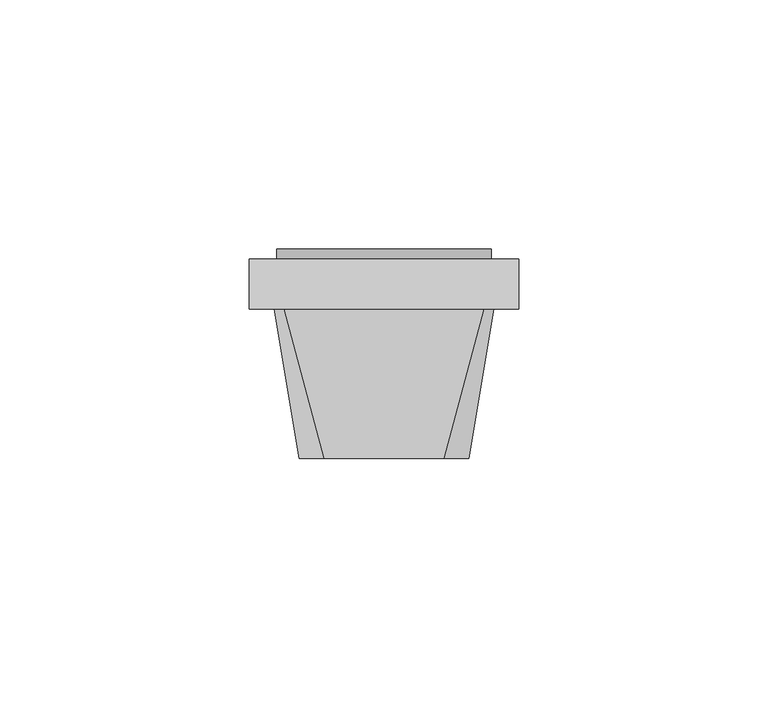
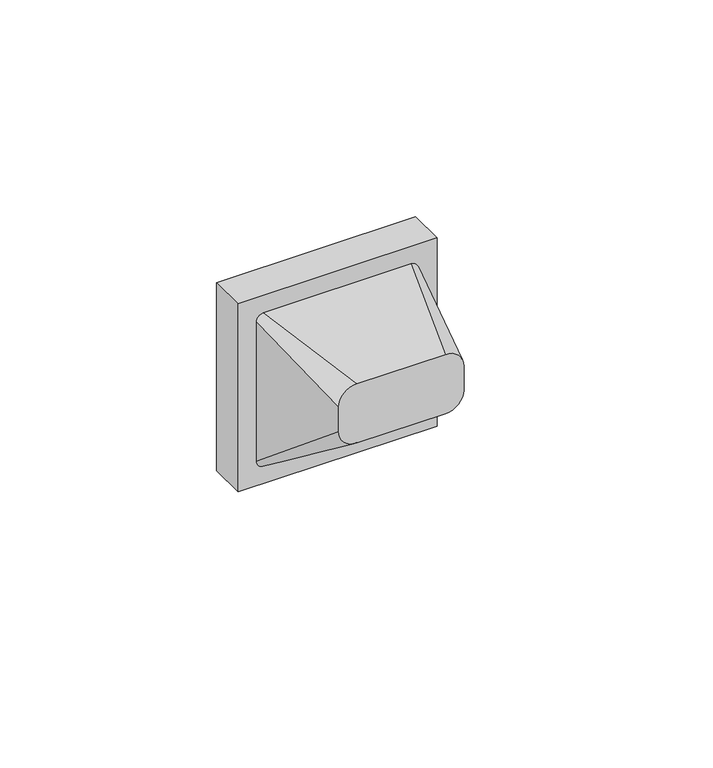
"""IFC4 building model written with IfcOpenShell, lengths in millimetres: proxy geometry, IEK_Brite_Механизм розетки 230В : 230 В шт._РСш10-2-БрА."""

import ifcopenshell
import ifcopenshell.guid

model = None  # the IFC model being written
_history = None  # IfcOwnerHistory: only IFC2X3 demands one
_inside = {}  # id of a spatial element -> (the spatial element, [elements in it])
_under = {}  # id of a project, library or spatial element -> (it, [spatial elements below it])
_declared = {}  # id of a project -> (the project, [libraries it declares])
_typed = {}  # id of a type object -> (the type object, [elements of that type])
_made_of = {}  # id of a material, layer set ... -> (it, [elements and type objects made of it])


def new_model(schema):
    """Start an empty IFC model of exactly this schema.

    Asked for "IFC4X3", IfcOpenShell would pick the latest addendum, in which some entities
    have other attributes; the version numbers below select the first issue.
    IFC2X3 requires an IfcOwnerHistory on every rooted entity: one is made here for all.
    """
    global model, _history
    if schema == "IFC4X3":
        model = ifcopenshell.file(schema_version=(4, 3, 0, 0))
    else:
        model = ifcopenshell.file(schema=schema)
    _inside.clear()
    _under.clear()
    _declared.clear()
    _typed.clear()
    _made_of.clear()
    _history = None
    if model.schema == "IFC2X3":
        org = make("IfcOrganization", Name="unknown")
        user = make(
            "IfcPersonAndOrganization",
            ThePerson=make("IfcPerson", FamilyName="unknown"),
            TheOrganization=org,
        )
        app = make(
            "IfcApplication",
            ApplicationDeveloper=org,
            Version="unknown",
            ApplicationFullName="unknown",
            ApplicationIdentifier="unknown",
        )
        _history = make(
            "IfcOwnerHistory",
            OwningUser=user,
            OwningApplication=app,
            ChangeAction="ADDED",
            CreationDate=0,
        )
    return model


def make(cls, **values):
    """One entity of the class cls with the attributes given. An attribute that is None is left unset."""
    return model.create_entity(
        cls, **{name: value for name, value in values.items() if value is not None}
    )


def rooted(cls, **values):
    """An entity with a GlobalId (a new one), such as an element, a storey or a relation."""
    return make(cls, GlobalId=ifcopenshell.guid.new(), OwnerHistory=_history, **values)


def si_unit(unit_type, name, prefix=None):
    """IfcSIUnit, for example si_unit("LENGTHUNIT", "METRE", prefix="MILLI")."""
    return make("IfcSIUnit", UnitType=unit_type, Prefix=prefix, Name=name)


def assignment(units):
    """IfcUnitAssignment: the units of a project."""
    return None if units is None else make("IfcUnitAssignment", Units=units)


def point(xyz):
    """IfcCartesianPoint."""
    return None if xyz is None else make("IfcCartesianPoint", Coordinates=xyz)


def direction(xyz):
    """IfcDirection."""
    return None if xyz is None else make("IfcDirection", DirectionRatios=xyz)


def frame(location, z_axis=None, x_axis=None):
    """IfcAxis2Placement3D, a coordinate frame: its origin and axes. An axis left out is left unset."""
    return make(
        "IfcAxis2Placement3D",
        Location=point(location),
        Axis=direction(z_axis),
        RefDirection=direction(x_axis),
    )


def frame_2d(location, x_axis=None):
    """IfcAxis2Placement2D, a coordinate frame in the plane: its origin and x axis."""
    return make(
        "IfcAxis2Placement2D", Location=point(location), RefDirection=direction(x_axis)
    )


def origin():
    """The frame at (0, 0, 0) with its axes left unset."""
    return frame((0.0, 0.0, 0.0))


def origin_2d():
    """The frame at (0, 0) in the plane with its x axis left unset."""
    return frame_2d((0.0, 0.0))


def place(relative_to, where):
    """IfcLocalPlacement: puts the frame where relative to a parent placement (None: the world)."""
    return make(
        "IfcLocalPlacement", PlacementRelTo=relative_to, RelativePlacement=where
    )


def context(
    kind, dimensions, precision=None, world=None, true_north=None, identifier=None
):
    """IfcGeometricRepresentationContext, for example the 3D "Model" context."""
    return make(
        "IfcGeometricRepresentationContext",
        ContextIdentifier=identifier,
        ContextType=kind,
        CoordinateSpaceDimension=dimensions,
        Precision=precision,
        WorldCoordinateSystem=world,
        TrueNorth=true_north,
    )


def project(units=None, contexts=None):
    """IfcProject with its units and contexts."""
    return rooted(
        "IfcProject",
        Name="project",
        RepresentationContexts=contexts,
        UnitsInContext=assignment(units),
    )


def spatial(cls, under=None, at=None, **own):
    """A site, building, storey or space (cls), placed at a placement, below another one or the project."""
    s = rooted(cls, ObjectPlacement=at, **own)
    if under is not None:
        _under.setdefault(under.id(), (under, []))[1].append(s)
    return s


def polyline(points):
    """IfcPolyline through the points."""
    return make("IfcPolyline", Points=[point(p) for p in points])


def circle_curve(where, radius):
    """IfcCircle in the frame where."""
    return make("IfcCircle", Position=where, Radius=radius)


def ellipse_curve(where, semi_axis1, semi_axis2):
    """IfcEllipse in the frame where."""
    return make(
        "IfcEllipse", Position=where, SemiAxis1=semi_axis1, SemiAxis2=semi_axis2
    )


def trimmed(basis, trim1, trim2, sense, master):
    """IfcTrimmedCurve: the piece of a basis curve between two trims."""
    return make(
        "IfcTrimmedCurve",
        BasisCurve=basis,
        Trim1=trim1,
        Trim2=trim2,
        SenseAgreement=sense,
        MasterRepresentation=master,
    )


def segment(curve, same_sense, transition):
    """IfcCompositeCurveSegment."""
    return make(
        "IfcCompositeCurveSegment",
        Transition=transition,
        SameSense=same_sense,
        ParentCurve=curve,
    )


def composite_curve(segments, self_intersect=None):
    """IfcCompositeCurve: segments joined end to end."""
    return make("IfcCompositeCurve", Segments=segments, SelfIntersect=self_intersect)


def outline(outer, holes=None, kind="AREA"):
    """IfcArbitraryClosedProfileDef: a profile drawn as a closed curve; with holes, ...WithVoids."""
    if holes is None:
        return make("IfcArbitraryClosedProfileDef", ProfileType=kind, OuterCurve=outer)
    return make(
        "IfcArbitraryProfileDefWithVoids",
        ProfileType=kind,
        OuterCurve=outer,
        InnerCurves=holes,
    )


def extrude(swept, where, along, depth):
    """IfcExtrudedAreaSolid: the profile swept, set in the frame where, extruded along a direction by depth."""
    return make(
        "IfcExtrudedAreaSolid",
        SweptArea=swept,
        Position=where,
        ExtrudedDirection=direction(along),
        Depth=depth,
    )


def shape(context_of_items, identifier, shape_type, items):
    """IfcShapeRepresentation: the items that make up one representation, for example the "Body"."""
    return make(
        "IfcShapeRepresentation",
        ContextOfItems=context_of_items,
        RepresentationIdentifier=identifier,
        RepresentationType=shape_type,
        Items=items,
    )


def source(mapping_origin, context_of_items, identifier, shape_type, items):
    """IfcRepresentationMap: a shape defined once, which mapped items show again and again."""
    return make(
        "IfcRepresentationMap",
        MappingOrigin=mapping_origin,
        MappedRepresentation=shape(context_of_items, identifier, shape_type, items),
    )


def transform(
    local_origin,
    x_axis=None,
    y_axis=None,
    z_axis=None,
    scale=None,
    scale2=None,
    scale3=None,
    uniform=True,
):
    """IfcCartesianTransformationOperator3D, or its non-uniform kind. x_axis, y_axis, z_axis: its Axis1, 2, 3."""
    if uniform:
        return make(
            "IfcCartesianTransformationOperator3D",
            Axis1=direction(x_axis),
            Axis2=direction(y_axis),
            LocalOrigin=point(local_origin),
            Scale=scale,
            Axis3=direction(z_axis),
        )
    return make(
        "IfcCartesianTransformationOperator3DnonUniform",
        Axis1=direction(x_axis),
        Axis2=direction(y_axis),
        LocalOrigin=point(local_origin),
        Scale=scale,
        Axis3=direction(z_axis),
        Scale2=scale2,
        Scale3=scale3,
    )


def mapped(mapping_source, mapping_target):
    """IfcMappedItem: shows the shape of a source again, moved by a transform."""
    return make(
        "IfcMappedItem", MappingSource=mapping_source, MappingTarget=mapping_target
    )


def made_of(thing, what):
    """Note that an element or type object is made of a material, layer set ...; save() writes the relation."""
    if what is not None:
        _made_of.setdefault(what.id(), (what, []))[1].append(thing)
    return thing


def element(
    cls,
    number,
    at=None,
    inside=None,
    cuts=None,
    type_object=None,
    material=None,
    context=None,
    identifier="Body",
    shape_type=None,
    held_by="IfcProductDefinitionShape",
    body=None,
    shapes=None,
    **own,
):
    """One element of the class cls, such as IfcWall. Its Tag is "e" and its number.

    at: its placement. inside: the storey or other place that contains it. cuts: it is an
    opening in that element (IfcRelVoidsElement). A single representation is given by context,
    identifier, shape_type and body (its items); several are given by shapes. held_by: the class
    of the entity that holds the representations. save() writes the other relations.
    """
    e = rooted(cls, Tag="e%d" % number, ObjectPlacement=at, **own)
    if body is not None:
        shapes = [shape(context, identifier, shape_type, body)]
    if shapes is not None:
        e.Representation = make(held_by, Representations=shapes)
    if inside is not None:
        _inside.setdefault(inside.id(), (inside, []))[1].append(e)
    if cuts is not None:
        rooted(
            "IfcRelVoidsElement", RelatingBuildingElement=cuts, RelatedOpeningElement=e
        )
    if type_object is not None:
        _typed.setdefault(type_object.id(), (type_object, []))[1].append(e)
    return made_of(e, material)


def aggregate(whole, parts):
    """IfcRelAggregates: a whole, such as a stair, and the parts it consists of."""
    return rooted("IfcRelAggregates", RelatingObject=whole, RelatedObjects=parts)


def save(model, path):
    """Write the relations noted so far, then the file.

    IfcRelAggregates (storeys below a building ...), IfcRelContainedInSpatialStructure (elements
    in a storey), IfcRelDefinesByType, IfcRelAssociatesMaterial and IfcRelDeclares: one each for
    every whole, place, type object, material and project.
    """
    for whole, parts in _under.values():
        aggregate(whole, parts)
    for where, things in _inside.values():
        rooted(
            "IfcRelContainedInSpatialStructure",
            RelatedElements=things,
            RelatingStructure=where,
        )
    for kind, things in _typed.values():
        rooted("IfcRelDefinesByType", RelatedObjects=things, RelatingType=kind)
    for what, things in _made_of.values():
        rooted("IfcRelAssociatesMaterial", RelatedObjects=things, RelatingMaterial=what)
    for by, libraries in _declared.values():
        rooted("IfcRelDeclares", RelatingContext=by, RelatedDefinitions=libraries)
    model.write(path)


def plane_surface(at):
    """IfcPlane: the flat surface through the origin of the frame at, square to its z axis."""
    return make("IfcPlane", Position=at)


def cylinder_surface(at, radius):
    """IfcCylindricalSurface: all points at the distance radius from the z axis of the frame at."""
    return make("IfcCylindricalSurface", Position=at, Radius=radius)


def revolved_surface(curve, axis_point, axis_direction):
    """IfcSurfaceOfRevolution: the curve turned about the line through axis_point along axis_direction."""
    return make(
        "IfcSurfaceOfRevolution",
        SweptCurve=make("IfcArbitraryOpenProfileDef", ProfileType="CURVE", Curve=curve),
        AxisPosition=make("IfcAxis1Placement", Location=point(axis_point), Axis=direction(axis_direction)),
    )


def spline_surface(u_degree, v_degree, points, u_multiplicities, v_multiplicities, u_knots, v_knots, weights=None):
    """IfcBSplineSurfaceWithKnots; with weights, IfcRationalBSplineSurfaceWithKnots. points: one row for each step in u."""
    own = dict(
        UDegree=u_degree,
        VDegree=v_degree,
        ControlPointsList=[[point(p) for p in row] for row in points],
        SurfaceForm="UNSPECIFIED",
        UClosed=False,
        VClosed=False,
        SelfIntersect=False,
        UMultiplicities=u_multiplicities,
        VMultiplicities=v_multiplicities,
        UKnots=u_knots,
        VKnots=v_knots,
        KnotSpec="UNSPECIFIED",
    )
    if weights is None:
        return make("IfcBSplineSurfaceWithKnots", **own)
    return make("IfcRationalBSplineSurfaceWithKnots", WeightsData=weights, **own)


def advanced_brep(points, edges, surfaces, faces):
    """IfcAdvancedBrep: a solid bounded by faces that lie on surfaces and meet in shared edges.

    An edge is (start, end): straight between two places in points (the first is 0);
    or (start, end, curve); or (start, end, curve, False) where it runs against its curve.
    A face is (place in surfaces, loops), or (place, loops, False) where it looks against
    its surface's normal. A loop lists edges by number (the first is 1), with a minus sign
    where the edge is run from its end to its start. The first loop is the outer one.
    """
    corners = [point(p) for p in points]
    vertices = [make("IfcVertexPoint", VertexGeometry=c) for c in corners]
    made = []
    for start, end, *more in edges:
        made.append(
            make(
                "IfcEdgeCurve",
                EdgeStart=vertices[start],
                EdgeEnd=vertices[end],
                EdgeGeometry=more[0] if more else make("IfcPolyline", Points=[corners[start], corners[end]]),
                SameSense=more[1] if len(more) > 1 else True,
            )
        )
    hull = []
    for where, loops, *sense in faces:
        bounds = []
        for j, loop in enumerate(loops):
            ring = [make("IfcOrientedEdge", EdgeElement=made[abs(k) - 1], Orientation=k > 0) for k in loop]
            bounds.append(
                make(
                    "IfcFaceOuterBound" if j == 0 else "IfcFaceBound",
                    Bound=make("IfcEdgeLoop", EdgeList=ring),
                    Orientation=True,
                )
            )
        hull.append(make("IfcAdvancedFace", Bounds=bounds, FaceSurface=surfaces[where], SameSense=sense[0] if sense else True))
    return make("IfcAdvancedBrep", Outer=make("IfcClosedShell", CfsFaces=hull))


def electrical_fixtures_7a809f7f(model_context):
    return source(origin(), model_context, "Body", "SolidModel", [
        advanced_brep(
        [(-12.0, -30.0, 17.0), (-17.0, -30.0, 12.0), (-17.0, -30.0, 5.0), (-12.0, -30.0, 0.0), (12.0, -30.0, 0.0), (17.0, -30.0, 5.0), (17.0, -30.0, 12.0), (12.0, -30.0, 17.0), (-20.0, 0.0, 22.0), (20.0, 0.0, 22.0), (22.0, 0.0, 20.0), (22.0, 0.0, -20.0), (20.0, 0.0, -22.0), (-20.0, 0.0, -22.0), (-22.0, 0.0, -20.0), (-22.0, 0.0, 20.0), (-11.8753617, 0.0, 0.0), (-6.3904783, 0.0, 0.0), (-3.0105286, 0.0, 0.0), (3.0105286, 0.0, 0.0), (6.3904783, 0.0, 0.0), (11.8753617, 0.0, 0.0), (-1.7917908, 0.0, 19.3280847), (-1.7917908, 0.0, 16.8280847), (0.0, 0.0, 16.8280847), (1.7917908, 0.0, 16.8280847), (1.7917908, 0.0, 19.3280847), (0.0, 0.0, 19.3280847), (-1.7917908, 0.0, -19.3280847), (0.0, 0.0, -19.3280847), (1.7917908, 0.0, -19.3280847), (1.7917908, 0.0, -16.8280847), (0.0, 0.0, -16.8280847), (-1.7917908, 0.0, -16.8280847), (0.0, -3.6435209, -19.3280847), (-1.7917908, -3.6435209, -19.3280847), (-1.7917908, -7.0526118, -16.8280847), (0.0, -7.0526118, -16.8280847), (1.7917908, -7.0526118, -16.8280847), (1.7917908, -3.6435209, -19.3280847), (-11.8753617, -13.4962918, 0.0), (-6.3904783, -13.4962918, 0.0), (-3.0105286, -13.4962918, 0.0), (3.0105286, -13.4962918, 0.0), (6.3904783, -13.4962918, 0.0), (11.8753617, -13.4962918, 0.0), (-1.7917908, -13.4962918, 19.3280847), (0.0, -13.4962918, 19.3280847), (1.7917908, -13.4962918, 19.3280847), (1.7917908, -13.4962918, 16.8280847), (0.0, -13.4962918, 16.8280847), (-1.7917908, -13.4962918, 16.8280847)],
        [
            (0, 1, circle_curve(frame((-12.0, -30.0, 12.0), z_axis=(0.0, -1.0, 0.0), x_axis=(1.0, 0.0, 0.0)), 5.0)),
            (1, 2),
            (2, 3, circle_curve(frame((-12.0, -30.0, 5.0), z_axis=(0.0, -1.0, 0.0), x_axis=(1.0, 0.0, 0.0)), 5.0)),
            (3, 4),
            (4, 5, circle_curve(frame((12.0, -30.0, 5.0), z_axis=(0.0, -1.0, 0.0), x_axis=(1.0, 0.0, 0.0)), 5.0)),
            (5, 6),
            (6, 7, circle_curve(frame((12.0, -30.0, 12.0), z_axis=(0.0, -1.0, 0.0), x_axis=(1.0, 0.0, 0.0)), 5.0)),
            (7, 0),
            (8, 9),
            (9, 10, circle_curve(frame((20.0, 0.0, 20.0), z_axis=(0.0, 1.0, 0.0), x_axis=(1.0, 0.0, 0.0)), 2.0)),
            (10, 11),
            (11, 12, circle_curve(frame((20.0, 0.0, -20.0), z_axis=(0.0, 1.0, 0.0), x_axis=(1.0, 0.0, 0.0)), 2.0)),
            (12, 13),
            (13, 14, circle_curve(frame((-20.0, 0.0, -20.0), z_axis=(0.0, 1.0, 0.0), x_axis=(1.0, 0.0, 0.0)), 2.0)),
            (14, 15),
            (15, 8, circle_curve(frame((-20.0, 0.0, 20.0), z_axis=(0.0, 1.0, 0.0), x_axis=(1.0, 0.0, 0.0)), 2.0)),
            (16, 17, circle_curve(frame((-9.13292, 0.0, 0.0), z_axis=(0.0, -1.0, 0.0), x_axis=(1.0, 0.0, 0.0)), 2.7424417)),
            (17, 16, circle_curve(frame((-9.13292, 0.0, 0.0), z_axis=(0.0, -1.0, 0.0), x_axis=(1.0, 0.0, 0.0)), 2.7424417)),
            (18, 19, circle_curve(frame((0.0, 0.0, 0.0), z_axis=(0.0, -1.0, 0.0), x_axis=(1.0, 0.0, 0.0)), 3.0105286)),
            (19, 18, circle_curve(frame((0.0, 0.0, 0.0), z_axis=(0.0, -1.0, 0.0), x_axis=(1.0, 0.0, 0.0)), 3.0105286)),
            (20, 21, circle_curve(frame((9.13292, 0.0, 0.0), z_axis=(0.0, -1.0, 0.0), x_axis=(1.0, 0.0, 0.0)), 2.7424417)),
            (21, 20, circle_curve(frame((9.13292, 0.0, 0.0), z_axis=(0.0, -1.0, 0.0), x_axis=(1.0, 0.0, 0.0)), 2.7424417)),
            (22, 23),
            (23, 24),
            (24, 25),
            (25, 26),
            (26, 27),
            (27, 22),
            (28, 29),
            (29, 30),
            (30, 31),
            (31, 32),
            (32, 33),
            (33, 28),
            (7, 9),
            (8, 0),
            (6, 10),
            (5, 11),
            (4, 12),
            (3, 13),
            (34, 35),
            (35, 36),
            (36, 37),
            (37, 38),
            (38, 39),
            (39, 34),
            (2, 14),
            (1, 15),
            (40, 41, circle_curve(frame((-9.13292, -13.4962918, 0.0), z_axis=(0.0, 1.0, 0.0), x_axis=(1.0, 0.0, 0.0)), 2.7424417)),
            (41, 40, circle_curve(frame((-9.13292, -13.4962918, 0.0), z_axis=(0.0, 1.0, 0.0), x_axis=(1.0, 0.0, 0.0)), 2.7424417)),
            (42, 43, circle_curve(frame((0.0, -13.4962918, 0.0), z_axis=(0.0, 1.0, 0.0), x_axis=(1.0, 0.0, 0.0)), 3.0105286)),
            (43, 42, circle_curve(frame((0.0, -13.4962918, 0.0), z_axis=(0.0, 1.0, 0.0), x_axis=(1.0, 0.0, 0.0)), 3.0105286)),
            (44, 45, circle_curve(frame((9.13292, -13.4962918, 0.0), z_axis=(0.0, 1.0, 0.0), x_axis=(1.0, 0.0, 0.0)), 2.7424417)),
            (45, 44, circle_curve(frame((9.13292, -13.4962918, 0.0), z_axis=(0.0, 1.0, 0.0), x_axis=(1.0, 0.0, 0.0)), 2.7424417)),
            (46, 47),
            (47, 48),
            (48, 49),
            (49, 50),
            (50, 51),
            (51, 46),
            (41, 17),
            (16, 40),
            (43, 19),
            (18, 42),
            (45, 21),
            (20, 44),
            (51, 23),
            (22, 46),
            (50, 24),
            (49, 25),
            (48, 26),
            (47, 27),
            (28, 35),
            (34, 29),
            (39, 30),
            (38, 31),
            (37, 32),
            (36, 33),
        ],
        [
            plane_surface(frame((0.0, -30.0, 8.5), z_axis=(0.0, -1.0, 0.0), x_axis=(-1.0, 0.0, 0.0))),
            plane_surface(frame((0.0, 0.0, 0.0), z_axis=(0.0, 1.0, 0.0), x_axis=(-1.0, 0.0, 0.0))),
            plane_surface(frame((0.0, 0.0, 22.0), z_axis=(0.0, -0.16439898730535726, 0.9863939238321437), x_axis=(-1.0, 0.0, 0.0))),
            spline_surface(2, 1, [[(22.0, 0.0, 20.0), (17.0, -30.0, 12.0)], [(22.0, 0.0, 22.0), (17.0, -30.0, 17.0)], [(20.0, 0.0, 22.0), (12.0, -30.0, 17.0)]], [3, 3], [2, 2], [0.0, 1.0], [0.0, 1.0], weights=[[1.0, 1.0], [0.7071067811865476, 0.7071067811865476], [1.0, 1.0]]),
            plane_surface(frame((22.0, 0.0, 0.0), z_axis=(0.9863939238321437, -0.1643989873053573, 0.0), x_axis=(0.0, 0.0, 1.0))),
            spline_surface(2, 1, [[(20.0, 0.0, -22.0), (12.0, -30.0, 0.0)], [(22.0, 0.0, -22.0), (17.0, -30.0, 0.0)], [(22.0, 0.0, -20.0), (17.0, -30.0, 5.0)]], [3, 3], [2, 2], [0.0, 1.0], [0.0, 1.0], weights=[[1.0, 1.0], [0.7071067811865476, 0.7071067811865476], [1.0, 1.0]]),
            plane_surface(frame((0.0, 0.0, -22.0), z_axis=(0.0, -0.591363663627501, -0.8064049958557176), x_axis=(1.0, 0.0, 0.0))),
            spline_surface(2, 1, [[(-22.0, 0.0, -20.0), (-17.0, -30.0, 5.0)], [(-22.0, 0.0, -22.0), (-17.0, -30.0, 0.0)], [(-20.0, 0.0, -22.0), (-12.0, -30.0, 0.0)]], [3, 3], [2, 2], [0.0, 1.0], [0.0, 1.0], weights=[[1.0, 1.0], [0.7071067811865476, 0.7071067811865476], [1.0, 1.0]]),
            plane_surface(frame((-22.0, 0.0, 0.0), z_axis=(-0.9863939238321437, -0.1643989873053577, 0.0), x_axis=(0.0, 0.0, -1.0))),
            spline_surface(2, 1, [[(-20.0, 0.0, 22.0), (-12.0, -30.0, 17.0)], [(-22.0, 0.0, 22.0), (-17.0, -30.0, 17.0)], [(-22.0, 0.0, 20.0), (-17.0, -30.0, 12.0)]], [3, 3], [2, 2], [0.0, 1.0], [0.0, 1.0], weights=[[1.0, 1.0], [0.7071067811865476, 0.7071067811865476], [1.0, 1.0]]),
            plane_surface(frame((-6.3904783, -13.4962918, 0.0), z_axis=(0.0, 1.0, 0.0), x_axis=(0.0, 0.0, 1.0))),
            revolved_surface(polyline([(-6.3904783, -13.4962918, 0.0), (-6.3904783, 0.0, 0.0)]), (-9.13292, 0.0, 0.0), (0.0, -1.0, 0.0)),
            revolved_surface(polyline([(3.0105286, -13.4962918, 0.0), (3.0105286, 0.0, 0.0)]), (0.0, -2.0, 0.0), (0.0, -1.0, 0.0)),
            revolved_surface(polyline([(11.875361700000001, -13.4962918, 0.0), (11.875361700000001, 0.0, 0.0)]), (9.13292, -2.0, 0.0), (0.0, -1.0, 0.0)),
            plane_surface(frame((-1.7917908, -13.4962918, 19.3280847), z_axis=(1.0, 0.0, 0.0), x_axis=(0.0, 1.0, 0.0))),
            plane_surface(frame((-1.7917908, -13.4962918, 16.8280847), z_axis=(0.0, 0.0, 1.0), x_axis=(0.0, 1.0, 0.0))),
            plane_surface(frame((0.0, -13.4962918, 16.8280847), z_axis=(0.0, 0.0, 1.0), x_axis=(0.0, 1.0, 0.0))),
            plane_surface(frame((1.7917908, -13.4962918, 16.8280847), z_axis=(-1.0, 0.0, 0.0), x_axis=(0.0, 1.0, 0.0))),
            plane_surface(frame((1.7917908, -13.4962918, 19.3280847), z_axis=(0.0, 0.0, -1.0), x_axis=(0.0, 1.0, 0.0))),
            plane_surface(frame((0.0, -13.4962918, 19.3280847), z_axis=(0.0, 0.0, -1.0), x_axis=(0.0, 1.0, 0.0))),
            plane_surface(frame((-1.7917908, -13.4962918, -19.3280847), z_axis=(0.0, 0.0, 1.0), x_axis=(0.0, 1.0, 0.0))),
            plane_surface(frame((0.0, -13.4962918, -19.3280847), z_axis=(0.0, 0.0, 1.0), x_axis=(0.0, 1.0, 0.0))),
            plane_surface(frame((1.7917908, -13.4962918, -19.3280847), z_axis=(-1.0, 0.0, 0.0), x_axis=(0.0, 1.0, 0.0))),
            plane_surface(frame((1.7917908, -13.4962918, -16.8280847), z_axis=(0.0, 0.0, -1.0), x_axis=(0.0, 1.0, 0.0))),
            plane_surface(frame((0.0, -13.4962918, -16.8280847), z_axis=(0.0, 0.0, -1.0), x_axis=(0.0, 1.0, 0.0))),
            plane_surface(frame((-1.7917908, -13.4962918, -16.8280847), z_axis=(1.0, 0.0, 0.0), x_axis=(0.0, 1.0, 0.0))),
        ],
        [
            (0, [[1, 2, 3, 4, 5, 6, 7, 8]]),
            (1, [[9, 10, 11, 12, 13, 14, 15, 16], [17, 18], [19, 20], [21, 22], [23, 24, 25, 26, 27, 28], [29, 30, 31, 32, 33, 34]]),
            (2, [[-8, 35, -9, 36]]),
            (3, [[-7, 37, -10, -35]]),
            (4, [[-6, 38, -11, -37]]),
            (5, [[-5, 39, -12, -38]]),
            (6, [[-4, 40, -13, -39], [41, 42, 43, 44, 45, 46]]),
            (7, [[-3, 47, -14, -40]]),
            (8, [[-2, 48, -15, -47]]),
            (9, [[-1, -36, -16, -48]]),
            (10, [[49, 50]]),
            (10, [[51, 52]]),
            (10, [[53, 54]]),
            (10, [[55, 56, 57, 58, 59, 60]]),
            (11, [[-50, 61, -17, 62]]),
            (11, [[-49, -62, -18, -61]]),
            (12, [[-52, 63, -19, 64]]),
            (12, [[-51, -64, -20, -63]]),
            (13, [[-54, 65, -21, 66]]),
            (13, [[-53, -66, -22, -65]]),
            (14, [[-60, 67, -23, 68]]),
            (15, [[-59, 69, -24, -67]]),
            (16, [[-58, 70, -25, -69]]),
            (17, [[-57, 71, -26, -70]]),
            (18, [[-56, 72, -27, -71]]),
            (19, [[-55, -68, -28, -72]]),
            (20, [[73, -41, 74, -29]]),
            (21, [[-74, -46, 75, -30]]),
            (22, [[-75, -45, 76, -31]]),
            (23, [[-76, -44, 77, -32]]),
            (24, [[-77, -43, 78, -33]]),
            (25, [[-73, -34, -78, -42]]),
        ],
    ),
        advanced_brep(
        [(20.0, 0.0, 0.0), (20.0, 10.0, 0.0), (-20.0, 10.0, 0.0), (-20.0, 0.0, 0.0), (-27.0, 10.0, 27.0), (27.0, 10.0, 27.0), (27.0, 10.0, -27.0), (-27.0, 10.0, -27.0), (21.5, 10.0, 0.0), (-21.5, 10.0, 0.0), (-27.0, 0.0, 27.0), (-27.0, 0.0, -27.0), (27.0, 0.0, -27.0), (27.0, 0.0, 27.0), (-21.5, 12.0, 0.0), (21.5, 12.0, 0.0), (-20.0, 12.0, 0.0), (20.0, 12.0, 0.0)],
        [
            (0, 1),
            (1, 2, circle_curve(frame((0.0, 10.0, 0.0), z_axis=(0.0, 1.0, 0.0), x_axis=(1.0, 0.0, 0.0)), 20.0)),
            (2, 3),
            (3, 0, circle_curve(frame((0.0, 0.0, 0.0), z_axis=(0.0, -1.0, 0.0), x_axis=(1.0, 0.0, 0.0)), 20.0)),
            (0, 3, circle_curve(frame((0.0, 0.0, 0.0), z_axis=(0.0, -1.0, 0.0), x_axis=(1.0, 0.0, 0.0)), 20.0)),
            (2, 1, circle_curve(frame((0.0, 10.0, 0.0), z_axis=(0.0, 1.0, 0.0), x_axis=(1.0, 0.0, 0.0)), 20.0)),
            (4, 5),
            (5, 6),
            (6, 7),
            (7, 4),
            (8, 9, circle_curve(frame((0.0, 10.0, 0.0), z_axis=(0.0, -1.0, 0.0), x_axis=(-1.0, 0.0, 0.0)), 21.5)),
            (9, 8, circle_curve(frame((0.0, 10.0, 0.0), z_axis=(0.0, -1.0, 0.0), x_axis=(-1.0, 0.0, 0.0)), 21.5)),
            (10, 11),
            (11, 12),
            (12, 13),
            (13, 10),
            (7, 11),
            (10, 4),
            (6, 12),
            (5, 13),
            (14, 15, circle_curve(frame((0.0, 12.0, 0.0), z_axis=(0.0, 1.0, 0.0), x_axis=(-1.0, 0.0, 0.0)), 21.5)),
            (15, 14, circle_curve(frame((0.0, 12.0, 0.0), z_axis=(0.0, 1.0, 0.0), x_axis=(-1.0, 0.0, 0.0)), 21.5)),
            (16, 17, circle_curve(frame((0.0, 12.0, 0.0), z_axis=(0.0, -1.0, 0.0), x_axis=(-1.0, 0.0, 0.0)), 20.0)),
            (17, 16, circle_curve(frame((0.0, 12.0, 0.0), z_axis=(0.0, -1.0, 0.0), x_axis=(-1.0, 0.0, 0.0)), 20.0)),
            (16, 2),
            (1, 17),
            (14, 9),
            (8, 15),
        ],
        [
            revolved_surface(polyline([(20.0, 0.0, 0.0), (20.0, 10.0, 0.0)]), (0.0, 10.0, 0.0), (0.0, -1.0, 0.0)),
            plane_surface(frame((-27.0, 10.0, -27.0), z_axis=(0.0, 1.0, 0.0), x_axis=(0.0, 0.0, 1.0))),
            plane_surface(frame((-27.0, 0.0, -27.0), z_axis=(0.0, -1.0, 0.0), x_axis=(0.0, 0.0, -1.0))),
            plane_surface(frame((-27.0, 0.0, 27.0), z_axis=(-1.0, 0.0, 0.0), x_axis=(0.0, 1.0, 0.0))),
            plane_surface(frame((-27.0, 0.0, -27.0), z_axis=(0.0, 0.0, -1.0), x_axis=(0.0, 1.0, 0.0))),
            plane_surface(frame((27.0, 0.0, -27.0), z_axis=(1.0, 0.0, 0.0), x_axis=(0.0, 1.0, 0.0))),
            plane_surface(frame((27.0, 0.0, 27.0), z_axis=(0.0, 0.0, 1.0), x_axis=(0.0, 1.0, 0.0))),
            plane_surface(frame((-20.0, 12.0, 0.0), z_axis=(0.0, 1.0, 0.0), x_axis=(0.0, 0.0, -1.0))),
            revolved_surface(polyline([(-20.0, 10.0, 0.0), (-20.0, 12.0, 0.0)]), (0.0, 10.0, 0.0), (0.0, -1.0, 0.0)),
            cylinder_surface(frame((0.0, 10.0, 0.0), z_axis=(0.0, 1.0, 0.0), x_axis=(-1.0, 0.0, 0.0)), 21.5),
        ],
        [
            (0, [[1, 2, 3, 4]]),
            (0, [[-1, 5, -3, 6]]),
            (1, [[7, 8, 9, 10], [11, 12]]),
            (2, [[13, 14, 15, 16], [-4, -5]]),
            (3, [[-10, 17, -13, 18]]),
            (4, [[-9, 19, -14, -17]]),
            (5, [[-8, 20, -15, -19]]),
            (6, [[-7, -18, -16, -20]]),
            (7, [[21, 22], [23, 24]]),
            (8, [[-23, 25, -2, 26]]),
            (8, [[-24, -26, -6, -25]]),
            (9, [[-21, 27, -11, 28]]),
            (9, [[-22, -28, -12, -27]]),
        ],
    ),
        advanced_brep(
        [(0.0, 1.078125, -2.8986917), (0.0, 1.078125, 2.8986917), (0.0, 1.8649081, 0.0), (0.0, -0.7, -2.8986917), (0.0, -0.7, 2.8986917), (0.0, -0.7, 0.0)],
        [
            (0, 1, circle_curve(frame((0.0, 1.078125, 0.0), z_axis=(0.0, 1.0, 0.0), x_axis=(0.0, 0.0, 1.0)), 2.8986917)),
            (1, 2, ellipse_curve(frame((0.0, 1.078125, 0.15625), z_axis=(-1.0, 0.0, 0.0), x_axis=(0.0, 0.0, 1.0)), 2.7424417, 0.7880633)),
            (2, 0, ellipse_curve(frame((0.0, 1.078125, -0.15625), z_axis=(-1.0, 0.0, 0.0), x_axis=(0.0, 0.0, -1.0)), 2.7424417, 0.7880633)),
            (1, 0, circle_curve(frame((0.0, 1.078125, 0.0), z_axis=(0.0, 1.0, 0.0), x_axis=(0.0, 0.0, 1.0)), 2.8986917)),
            (3, 4, circle_curve(frame((0.0, -0.7, 0.0), z_axis=(0.0, 1.0, 0.0), x_axis=(0.0, 0.0, 1.0)), 2.8986917)),
            (4, 1),
            (0, 3),
            (4, 3, circle_curve(frame((0.0, -0.7, 0.0), z_axis=(0.0, 1.0, 0.0), x_axis=(0.0, 0.0, 1.0)), 2.8986917)),
            (5, 4),
            (3, 5),
        ],
        [
            revolved_surface(trimmed(ellipse_curve(frame((0.0, 1.078125, 0.15625), z_axis=(1.0, 0.0, 0.0), x_axis=(0.0, 0.0, 1.0)), 2.7424417, 0.7880633), [point((0.0, 1.8649081, 0.0))], [point((0.0, 1.078125, 2.8986917))], True, "CARTESIAN"), (0.0, -2.0228134, 0.0), (0.0, -1.0, 0.0)),
            cylinder_surface(frame((0.0, -2.0228134, 0.0), z_axis=(0.0, -1.0, 0.0), x_axis=(0.0, 0.0, 1.0)), 2.8986917),
            plane_surface(frame((0.0, -0.7, 0.0), z_axis=(0.0, -1.0, 0.0), x_axis=(0.0, 0.0, 1.0))),
        ],
        [
            (0, [[1, 2, 3]]),
            (0, [[4, -3, -2]]),
            (1, [[5, 6, -1, 7]]),
            (1, [[8, -7, -4, -6]]),
            (2, [[9, -5, 10]]),
            (2, [[-10, -8, -9]]),
        ],
    ),
        extrude(outline(composite_curve([segment(trimmed(circle_curve(origin_2d(), 20.0), [point((0.0, 20.0))], [point((0.0, -20.0))], False, "CARTESIAN"), True, "CONTINUOUS"), segment(trimmed(circle_curve(origin_2d(), 20.0), [point((0.0, -20.0))], [point((0.0, 20.0))], False, "CARTESIAN"), True, "CONTINUOUS")], self_intersect=False), holes=[composite_curve([segment(trimmed(circle_curve(frame_2d((0.0, 9.13292)), 2.7424417), [point((0.0, 6.3904783))], [point((0.0, 11.8753617))], True, "CARTESIAN"), True, "CONTINUOUS"), segment(trimmed(circle_curve(frame_2d((0.0, 9.13292)), 2.7424417), [point((0.0, 11.8753617))], [point((0.0, 6.3904783))], True, "CARTESIAN"), True, "CONTINUOUS")], self_intersect=False), composite_curve([segment(trimmed(circle_curve(frame_2d((0.0, -9.13292)), 2.7424417), [point((0.0, -11.8753617))], [point((0.0, -6.3904783))], True, "CARTESIAN"), True, "CONTINUOUS"), segment(trimmed(circle_curve(frame_2d((0.0, -9.13292)), 2.7424417), [point((0.0, -6.3904783))], [point((0.0, -11.8753617))], True, "CARTESIAN"), True, "CONTINUOUS")], self_intersect=False), composite_curve([segment(trimmed(circle_curve(origin_2d(), 3.0105286), [point((0.0, -3.0105286))], [point((0.0, 3.0105286))], True, "CARTESIAN"), True, "CONTINUOUS"), segment(trimmed(circle_curve(origin_2d(), 3.0105286), [point((0.0, 3.0105286))], [point((0.0, -3.0105286))], True, "CARTESIAN"), True, "CONTINUOUS")], self_intersect=False)]), frame((0.0, 0.0, 0.0), z_axis=(0.0, 1.0, 0.0), x_axis=(0.0, 0.0, 1.0)), (0.0, 0.0, 1.0), 1.0),
    ])


if __name__ == "__main__":
    model = new_model("IFC4")
    model_context = context("Model", 3, world=origin())
    ifc_project = project(units=[si_unit("LENGTHUNIT", "METRE", prefix="MILLI")], contexts=[model_context])
    site = spatial("IfcSite", under=ifc_project)
    building = spatial("IfcBuilding", under=site)
    placement = place(None, origin())
    electrical_fixtures_shape = electrical_fixtures_7a809f7f(model_context)
    element("IfcBuildingElementProxy", 1, Name="IEK_Brite_Механизм розетки 230В : 230 В шт._РСш10-2-БрА", ObjectType="IEK_Brite_Механизм розетки 230В : 230 В шт._РСш10-2-БрА", at=placement, inside=building, context=model_context, shape_type="MappedRepresentation", body=[
        mapped(electrical_fixtures_shape, transform((0.0, 0.0, 0.0), x_axis=(1.0, 0.0, 0.0), y_axis=(0.0, 1.0, 0.0), z_axis=(0.0, 0.0, 1.0))),
    ])
    save(model, "model.ifc")
